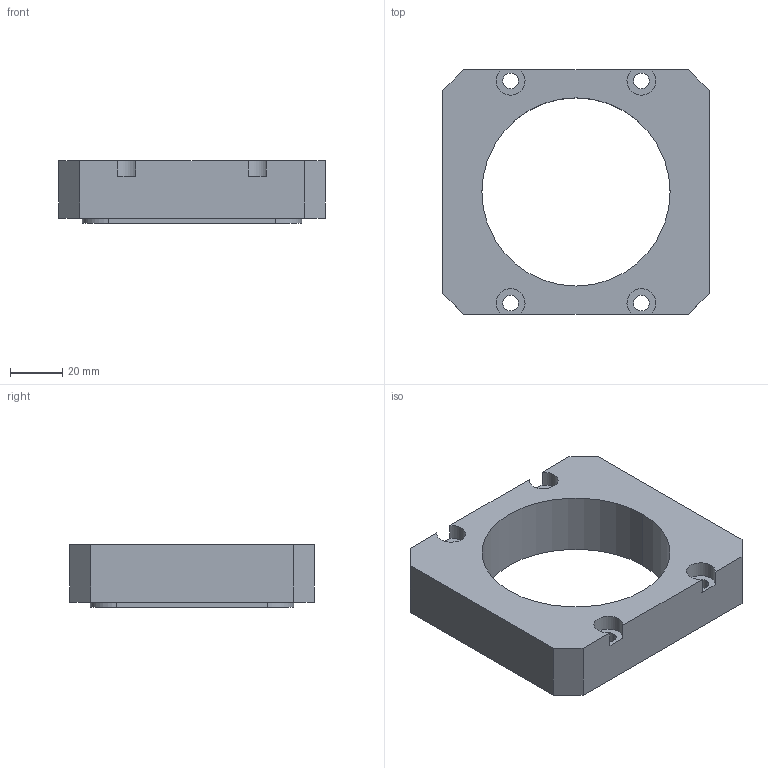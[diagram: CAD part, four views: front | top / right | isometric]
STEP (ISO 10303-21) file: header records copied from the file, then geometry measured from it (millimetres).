
FILE_DESCRIPTION((''),'2;1');
FILE_NAME('PI100','2017-07-20T',('Owner'),(''),'PRO/ENGINEER BY PARAMETRIC TECHNOLOGY CORPORATION, 2009440','PRO/ENGINEER BY PARAMETRIC TECHNOLOGY CORPORATION, 2009440','');
FILE_SCHEMA(('CONFIG_CONTROL_DESIGN'));
Length unit declared in the file: millimetre
Products named in the file (1): PI100
Bounding box: 102 x 93.6 x 24 mm (x, y, z)
Volume: 118449.5 mm3; surface area: 26398.2 mm2
Topology: 1 solids, 1 shells, 37 faces, 102 edges, 68 vertices
Faces by surface type: plane 19, cylinder 18
Entity records: 1250 total; most frequent: DIRECTION 212, CARTESIAN_POINT 207, ORIENTED_EDGE 204, EDGE_CURVE 102, AXIS2_PLACEMENT_3D 73, VERTEX_POINT 68, VECTOR 66, LINE 66
